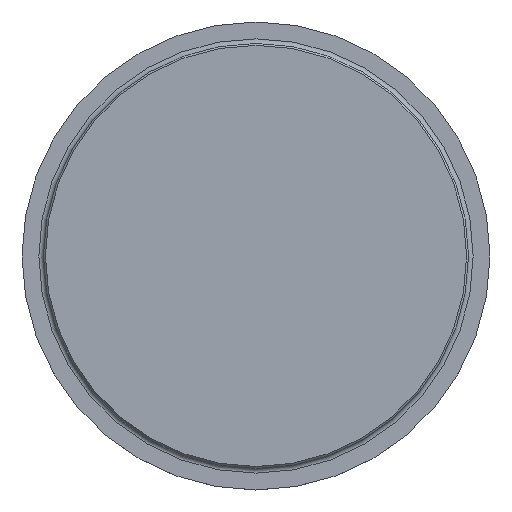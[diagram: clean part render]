
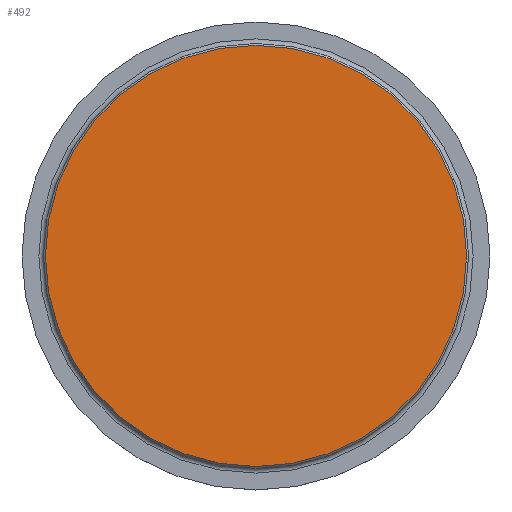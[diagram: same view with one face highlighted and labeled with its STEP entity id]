
A CAD part, top view. The second image highlights one B-rep face of the part: STEP entity #492.
In plain terms, the highlighted planar face has unit normal (0, 0, 1).
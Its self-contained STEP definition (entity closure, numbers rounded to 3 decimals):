
#492=ADVANCED_FACE('',(#537),#523,.T.);
#523=PLANE('',#1108);
#537=FACE_OUTER_BOUND('',#568,.T.);
#568=EDGE_LOOP('',(#633));
#633=ORIENTED_EDGE('',*,*,#951,.T.);
#847=VERTEX_POINT('',#1376);
#951=EDGE_CURVE('',#847,#847,#1062,.T.);
#1062=CIRCLE('',#1107,11.25);
#1107=AXIS2_PLACEMENT_3D('',#1375,#1199,#1200);
#1108=AXIS2_PLACEMENT_3D('',#1377,#1201,#1202);
#1199=DIRECTION('',(0.,0.,1.));
#1200=DIRECTION('',(1.,0.,0.));
#1201=DIRECTION('',(0.,0.,1.));
#1202=DIRECTION('',(0.,-1.,0.));
#1375=CARTESIAN_POINT('',(0.,0.,0.3));
#1376=CARTESIAN_POINT('',(11.25,0.,0.3));
#1377=CARTESIAN_POINT('',(0.,0.,0.3));
